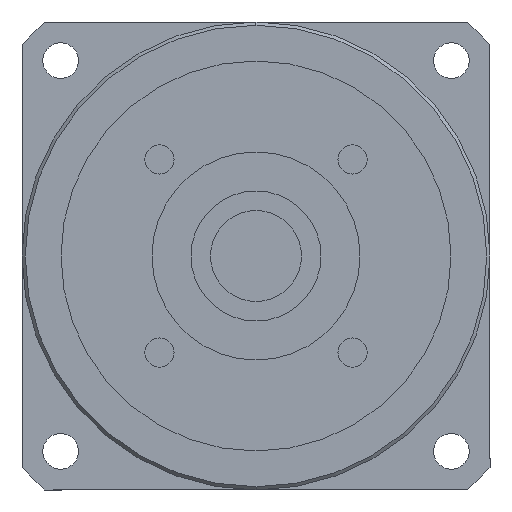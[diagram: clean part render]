
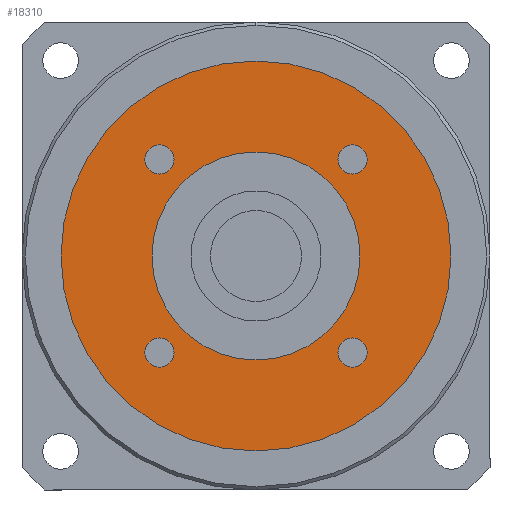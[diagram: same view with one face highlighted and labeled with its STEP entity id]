
A CAD part, left-side view. The second image highlights one B-rep face of the part: STEP entity #18310.
In plain terms, the highlighted planar face has unit normal (-1, 0, 0) as drawn and (0, 0, -1) by its records, which use the part's own axes.
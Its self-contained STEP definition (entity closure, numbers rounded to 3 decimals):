
#15130=CARTESIAN_POINT('',(-12.599,-14.849,-91.));
#15140=VERTEX_POINT('',#15130);
#15320=CARTESIAN_POINT('',(-17.099,-14.849,-91.));
#15330=VERTEX_POINT('',#15320);
#15360=CARTESIAN_POINT('',(-14.849,-14.849,-91.));
#15370=DIRECTION('',(0.,0.,-1.));
#15380=DIRECTION('',(0.,-1.,0.));
#15390=AXIS2_PLACEMENT_3D('',#15360,#15370,#15380);
#15400=CIRCLE('',#15390,2.25);
#15410=CARTESIAN_POINT('',(-14.849,-17.099,-91.));
#15420=VERTEX_POINT('',#15410);
#15430=EDGE_CURVE('',#15420,#15330,#15400,.T.);
#15450=EDGE_CURVE('',#15140,#15420,#15400,.T.);
#15550=CARTESIAN_POINT('',(0.,0.,
-91.));
#15560=DIRECTION('',(0.,0.,1.));
#15570=DIRECTION('',(0.,-1.,0.));
#15580=AXIS2_PLACEMENT_3D('',#15550,#15560,#15570);
#15590=CIRCLE('',#15580,16.);
#15600=CARTESIAN_POINT('',(0.,-16.,-91.));
#15610=VERTEX_POINT('',#15600);
#15620=CARTESIAN_POINT('',(16.,0.,-91.));
#15630=VERTEX_POINT('',#15620);
#15640=EDGE_CURVE('',#15610,#15630,#15590,.T.);
#15870=CARTESIAN_POINT('',(-16.,0.,-91.));
#15880=VERTEX_POINT('',#15870);
#15910=EDGE_CURVE('',#15880,#15610,#15590,.T.);
#17240=CARTESIAN_POINT('',(30.,0.,-91.));
#17250=VERTEX_POINT('',#17240);
#17280=CARTESIAN_POINT('',(0.,0.,
-91.));
#17290=DIRECTION('',(0.,0.,1.));
#17300=DIRECTION('',(0.,-1.,0.));
#17310=AXIS2_PLACEMENT_3D('',#17280,#17290,#17300);
#17320=CIRCLE('',#17310,30.);
#17330=CARTESIAN_POINT('',(0.,-30.,-91.));
#17340=VERTEX_POINT('',#17330);
#17350=EDGE_CURVE('',#17340,#17250,#17320,.T.);
#17370=CARTESIAN_POINT('',(-30.,0.,-91.));
#17380=VERTEX_POINT('',#17370);
#17390=EDGE_CURVE('',#17380,#17340,#17320,.T.);
#17510=CARTESIAN_POINT('',(0.,0.,
-91.));
#17520=DIRECTION('',(0.,0.,1.));
#17530=DIRECTION('',(-1.,0.,0.));
#17540=AXIS2_PLACEMENT_3D('',#17510,#17520,#17530);
#17550=PLANE('',#17540);
#17560=CARTESIAN_POINT('',(14.849,-14.849,-91.));
#17570=DIRECTION('',(0.,0.,-1.));
#17580=DIRECTION('',(1.,0.,0.));
#17590=AXIS2_PLACEMENT_3D('',#17560,#17570,#17580);
#17600=CIRCLE('',#17590,2.25);
#17610=CARTESIAN_POINT('',(17.099,-14.849,-91.));
#17620=VERTEX_POINT('',#17610);
#17630=CARTESIAN_POINT('',(14.849,-17.099,-91.));
#17640=VERTEX_POINT('',#17630);
#17650=EDGE_CURVE('',#17620,#17640,#17600,.T.);
#17660=ORIENTED_EDGE('',*,*,#17650,.F.);
#17670=CARTESIAN_POINT('',(14.849,-12.599,-91.));
#17680=VERTEX_POINT('',#17670);
#17690=EDGE_CURVE('',#17640,#17680,#17600,.T.);
#17700=ORIENTED_EDGE('',*,*,#17690,.F.);
#17710=EDGE_CURVE('',#17680,#17620,#17600,.T.);
#17720=ORIENTED_EDGE('',*,*,#17710,.F.);
#17730=EDGE_LOOP('',(#17720,#17700,#17660));
#17740=FACE_BOUND('',#17730,.T.);
#17750=CARTESIAN_POINT('',(14.849,14.849,-91.));
#17760=DIRECTION('',(0.,0.,-1.));
#17770=DIRECTION('',(0.,1.,0.));
#17780=AXIS2_PLACEMENT_3D('',#17750,#17760,#17770);
#17790=CIRCLE('',#17780,2.25);
#17800=CARTESIAN_POINT('',(14.849,17.099,-91.));
#17810=VERTEX_POINT('',#17800);
#17820=CARTESIAN_POINT('',(17.099,14.849,-91.));
#17830=VERTEX_POINT('',#17820);
#17840=EDGE_CURVE('',#17810,#17830,#17790,.T.);
#17850=ORIENTED_EDGE('',*,*,#17840,.F.);
#17860=CARTESIAN_POINT('',(12.599,14.849,-91.));
#17870=VERTEX_POINT('',#17860);
#17880=EDGE_CURVE('',#17830,#17870,#17790,.T.);
#17890=ORIENTED_EDGE('',*,*,#17880,.F.);
#17900=EDGE_CURVE('',#17870,#17810,#17790,.T.);
#17910=ORIENTED_EDGE('',*,*,#17900,.F.);
#17920=EDGE_LOOP('',(#17910,#17890,#17850));
#17930=FACE_BOUND('',#17920,.T.);
#17940=CARTESIAN_POINT('',(-14.849,14.849,-91.));
#17950=DIRECTION('',(0.,0.,-1.));
#17960=DIRECTION('',(-1.,0.,0.));
#17970=AXIS2_PLACEMENT_3D('',#17940,#17950,#17960);
#17980=CIRCLE('',#17970,2.25);
#17990=CARTESIAN_POINT('',(-17.099,14.849,-91.));
#18000=VERTEX_POINT('',#17990);
#18010=CARTESIAN_POINT('',(-14.849,17.099,-91.));
#18020=VERTEX_POINT('',#18010);
#18030=EDGE_CURVE('',#18000,#18020,#17980,.T.);
#18040=ORIENTED_EDGE('',*,*,#18030,.F.);
#18050=CARTESIAN_POINT('',(-14.849,12.599,-91.));
#18060=VERTEX_POINT('',#18050);
#18070=EDGE_CURVE('',#18020,#18060,#17980,.T.);
#18080=ORIENTED_EDGE('',*,*,#18070,.F.);
#18090=EDGE_CURVE('',#18060,#18000,#17980,.T.);
#18100=ORIENTED_EDGE('',*,*,#18090,.F.);
#18110=EDGE_LOOP('',(#18100,#18080,#18040));
#18120=FACE_BOUND('',#18110,.T.);
#18130=ORIENTED_EDGE('',*,*,#15430,.F.);
#18140=EDGE_CURVE('',#15330,#15140,#15400,.T.);
#18150=ORIENTED_EDGE('',*,*,#18140,.F.);
#18160=ORIENTED_EDGE('',*,*,#15450,.F.);
#18170=EDGE_LOOP('',(#18160,#18150,#18130));
#18180=FACE_BOUND('',#18170,.T.);
#18190=ORIENTED_EDGE('',*,*,#17350,.F.);
#18200=EDGE_CURVE('',#17250,#17380,#17320,.T.);
#18210=ORIENTED_EDGE('',*,*,#18200,.F.);
#18220=ORIENTED_EDGE('',*,*,#17390,.F.);
#18230=EDGE_LOOP('',(#18220,#18210,#18190));
#18240=FACE_OUTER_BOUND('',#18230,.T.);
#18250=EDGE_CURVE('',#15630,#15880,#15590,.T.);
#18260=ORIENTED_EDGE('',*,*,#18250,.T.);
#18270=ORIENTED_EDGE('',*,*,#15640,.T.);
#18280=ORIENTED_EDGE('',*,*,#15910,.T.);
#18290=EDGE_LOOP('',(#18280,#18270,#18260));
#18300=FACE_BOUND('',#18290,.T.);
#18310=ADVANCED_FACE('',(#17740,#17930,#18120,#18180,#18240,#18300),
#17550,.F.);
